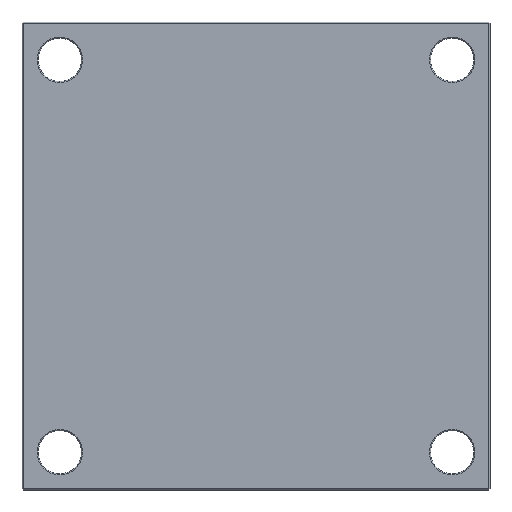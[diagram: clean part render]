
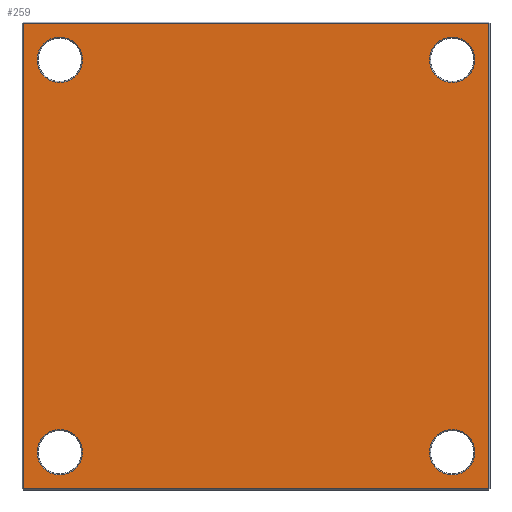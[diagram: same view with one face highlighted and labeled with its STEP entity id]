
A CAD part, front view. The second image highlights one B-rep face of the part: STEP entity #259.
In plain terms, the highlighted planar face has unit normal (0, -1, 0).
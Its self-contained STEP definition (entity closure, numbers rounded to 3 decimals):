
#9 = ORIENTED_EDGE ( 'NONE', *, *, #1429, .T. ) ;
#25 = ORIENTED_EDGE ( 'NONE', *, *, #1503, .T. ) ;
#26 = AXIS2_PLACEMENT_3D ( 'NONE', #1966, #1975, #2094 ) ;
#30 = CIRCLE ( 'NONE', #26, 21.65 ) ;
#31 = VERTEX_POINT ( 'NONE', #341 ) ;
#90 = CARTESIAN_POINT ( 'NONE',  ( -222., 0., 0. ) ) ;
#106 = AXIS2_PLACEMENT_3D ( 'NONE', #1601, #1620, #1781 ) ;
#234 = CIRCLE ( 'NONE', #519, 21.65 ) ;
#259 = ADVANCED_FACE ( 'NONE', ( #421, #1192, #1643, #1147, #784 ), #2147, .F. ) ;
#273 = CARTESIAN_POINT ( 'NONE',  ( -222., 0., -222. ) ) ;
#302 = CARTESIAN_POINT ( 'NONE',  ( 0., 0., -222. ) ) ;
#303 = CIRCLE ( 'NONE', #349, 21.65 ) ;
#341 = CARTESIAN_POINT ( 'NONE',  ( 222., 0., 222. ) ) ;
#349 = AXIS2_PLACEMENT_3D ( 'NONE', #994, #1001, #1007 ) ;
#370 = VERTEX_POINT ( 'NONE', #1211 ) ;
#384 = ORIENTED_EDGE ( 'NONE', *, *, #471, .T. ) ;
#390 = DIRECTION ( 'NONE',  ( 0., 1., 0. ) ) ;
#421 = FACE_BOUND ( 'NONE', #733, .T. ) ;
#447 = AXIS2_PLACEMENT_3D ( 'NONE', #1636, #1652, #1686 ) ;
#456 = VERTEX_POINT ( 'NONE', #810 ) ;
#463 = VERTEX_POINT ( 'NONE', #2179 ) ;
#471 = EDGE_CURVE ( 'NONE', #2024, #370, #1387, .T. ) ;
#474 = EDGE_CURVE ( 'NONE', #2096, #2024, #1328, .T. ) ;
#490 = EDGE_LOOP ( 'NONE', ( #930, #601 ) ) ;
#493 = EDGE_CURVE ( 'NONE', #31, #2096, #934, .T. ) ;
#499 = EDGE_CURVE ( 'NONE', #370, #31, #1271, .T. ) ;
#501 = CIRCLE ( 'NONE', #106, 21.65 ) ;
#504 = EDGE_CURVE ( 'NONE', #872, #456, #501, .T. ) ;
#509 = EDGE_CURVE ( 'NONE', #463, #1097, #30, .T. ) ;
#519 = AXIS2_PLACEMENT_3D ( 'NONE', #1191, #1223, #1233 ) ;
#541 = AXIS2_PLACEMENT_3D ( 'NONE', #2051, #390, #1588 ) ;
#556 = VECTOR ( 'NONE', #667, 1000. ) ;
#587 = CARTESIAN_POINT ( 'NONE',  ( -187., 0., -208.65 ) ) ;
#601 = ORIENTED_EDGE ( 'NONE', *, *, #1372, .T. ) ;
#620 = CIRCLE ( 'NONE', #447, 21.65 ) ;
#623 = CARTESIAN_POINT ( 'NONE',  ( -222., 0., 222. ) ) ;
#648 = AXIS2_PLACEMENT_3D ( 'NONE', #2058, #2064, #2074 ) ;
#655 = VERTEX_POINT ( 'NONE', #1960 ) ;
#667 = DIRECTION ( 'NONE',  ( 1., 0., 0. ) ) ;
#683 = EDGE_LOOP ( 'NONE', ( #1251, #920, #1050, #384 ) ) ;
#733 = EDGE_LOOP ( 'NONE', ( #1763, #954 ) ) ;
#745 = VERTEX_POINT ( 'NONE', #794 ) ;
#784 = FACE_OUTER_BOUND ( 'NONE', #683, .T. ) ;
#794 = CARTESIAN_POINT ( 'NONE',  ( 187., 0., -165.35 ) ) ;
#799 = DIRECTION ( 'NONE',  ( -1., 0., 0. ) ) ;
#810 = CARTESIAN_POINT ( 'NONE',  ( -187., 0., 165.35 ) ) ;
#816 = DIRECTION ( 'NONE',  ( 0., 0., -1. ) ) ;
#872 = VERTEX_POINT ( 'NONE', #1958 ) ;
#892 = VERTEX_POINT ( 'NONE', #1963 ) ;
#902 = VECTOR ( 'NONE', #799, 1000. ) ;
#920 = ORIENTED_EDGE ( 'NONE', *, *, #493, .T. ) ;
#930 = ORIENTED_EDGE ( 'NONE', *, *, #1346, .T. ) ;
#934 = LINE ( 'NONE', #940, #902 ) ;
#940 = CARTESIAN_POINT ( 'NONE',  ( 0., 0., 222. ) ) ;
#948 = CARTESIAN_POINT ( 'NONE',  ( 222., 0., 0. ) ) ;
#954 = ORIENTED_EDGE ( 'NONE', *, *, #509, .T. ) ;
#969 = CARTESIAN_POINT ( 'NONE',  ( 0., 0., 0. ) ) ;
#994 = CARTESIAN_POINT ( 'NONE',  ( -187., 0., -187. ) ) ;
#1001 = DIRECTION ( 'NONE',  ( 0., 1., 0. ) ) ;
#1007 = DIRECTION ( 'NONE',  ( 0., 0., 1. ) ) ;
#1050 = ORIENTED_EDGE ( 'NONE', *, *, #474, .T. ) ;
#1059 = DIRECTION ( 'NONE',  ( 0., 0., 1. ) ) ;
#1097 = VERTEX_POINT ( 'NONE', #587 ) ;
#1147 = FACE_BOUND ( 'NONE', #2160, .T. ) ;
#1191 = CARTESIAN_POINT ( 'NONE',  ( 187., 0., 187. ) ) ;
#1192 = FACE_BOUND ( 'NONE', #1557, .T. ) ;
#1211 = CARTESIAN_POINT ( 'NONE',  ( 222., 0., -222. ) ) ;
#1223 = DIRECTION ( 'NONE',  ( 0., 1., 0. ) ) ;
#1233 = DIRECTION ( 'NONE',  ( 0., 0., 1. ) ) ;
#1251 = ORIENTED_EDGE ( 'NONE', *, *, #499, .T. ) ;
#1271 = LINE ( 'NONE', #948, #2166 ) ;
#1293 = ORIENTED_EDGE ( 'NONE', *, *, #1403, .T. ) ;
#1328 = LINE ( 'NONE', #90, #1788 ) ;
#1330 = EDGE_CURVE ( 'NONE', #1097, #463, #303, .T. ) ;
#1346 = EDGE_CURVE ( 'NONE', #1823, #655, #234, .T. ) ;
#1372 = EDGE_CURVE ( 'NONE', #655, #1823, #620, .T. ) ;
#1387 = LINE ( 'NONE', #302, #556 ) ;
#1403 = EDGE_CURVE ( 'NONE', #745, #892, #1752, .T. ) ;
#1429 = EDGE_CURVE ( 'NONE', #892, #745, #2084, .T. ) ;
#1503 = EDGE_CURVE ( 'NONE', #456, #872, #1640, .T. ) ;
#1557 = EDGE_LOOP ( 'NONE', ( #9, #1293 ) ) ;
#1588 = DIRECTION ( 'NONE',  ( 0., 0., 1. ) ) ;
#1601 = CARTESIAN_POINT ( 'NONE',  ( -187., 0., 187. ) ) ;
#1620 = DIRECTION ( 'NONE',  ( 0., 1., 0. ) ) ;
#1636 = CARTESIAN_POINT ( 'NONE',  ( 187., 0., 187. ) ) ;
#1640 = CIRCLE ( 'NONE', #1771, 21.65 ) ;
#1643 = FACE_BOUND ( 'NONE', #490, .T. ) ;
#1652 = DIRECTION ( 'NONE',  ( 0., 1., 0. ) ) ;
#1686 = DIRECTION ( 'NONE',  ( 0., 0., 1. ) ) ;
#1709 = ORIENTED_EDGE ( 'NONE', *, *, #504, .T. ) ;
#1742 = AXIS2_PLACEMENT_3D ( 'NONE', #969, #2032, #2059 ) ;
#1752 = CIRCLE ( 'NONE', #648, 21.65 ) ;
#1763 = ORIENTED_EDGE ( 'NONE', *, *, #1330, .T. ) ;
#1771 = AXIS2_PLACEMENT_3D ( 'NONE', #2029, #2008, #2014 ) ;
#1781 = DIRECTION ( 'NONE',  ( 0., 0., 1. ) ) ;
#1788 = VECTOR ( 'NONE', #816, 1000. ) ;
#1823 = VERTEX_POINT ( 'NONE', #1934 ) ;
#1934 = CARTESIAN_POINT ( 'NONE',  ( 187., 0., 165.35 ) ) ;
#1958 = CARTESIAN_POINT ( 'NONE',  ( -187., 0., 208.65 ) ) ;
#1960 = CARTESIAN_POINT ( 'NONE',  ( 187., 0., 208.65 ) ) ;
#1963 = CARTESIAN_POINT ( 'NONE',  ( 187., 0., -208.65 ) ) ;
#1966 = CARTESIAN_POINT ( 'NONE',  ( -187., 0., -187. ) ) ;
#1975 = DIRECTION ( 'NONE',  ( 0., 1., 0. ) ) ;
#2008 = DIRECTION ( 'NONE',  ( 0., 1., 0. ) ) ;
#2014 = DIRECTION ( 'NONE',  ( 0., 0., 1. ) ) ;
#2024 = VERTEX_POINT ( 'NONE', #273 ) ;
#2029 = CARTESIAN_POINT ( 'NONE',  ( -187., 0., 187. ) ) ;
#2032 = DIRECTION ( 'NONE',  ( 0., 1., 0. ) ) ;
#2051 = CARTESIAN_POINT ( 'NONE',  ( 187., 0., -187. ) ) ;
#2058 = CARTESIAN_POINT ( 'NONE',  ( 187., 0., -187. ) ) ;
#2059 = DIRECTION ( 'NONE',  ( 0., 0., 1. ) ) ;
#2064 = DIRECTION ( 'NONE',  ( 0., 1., 0. ) ) ;
#2074 = DIRECTION ( 'NONE',  ( 0., 0., 1. ) ) ;
#2084 = CIRCLE ( 'NONE', #541, 21.65 ) ;
#2094 = DIRECTION ( 'NONE',  ( 0., 0., 1. ) ) ;
#2096 = VERTEX_POINT ( 'NONE', #623 ) ;
#2147 = PLANE ( 'NONE',  #1742 ) ;
#2160 = EDGE_LOOP ( 'NONE', ( #25, #1709 ) ) ;
#2166 = VECTOR ( 'NONE', #1059, 1000. ) ;
#2179 = CARTESIAN_POINT ( 'NONE',  ( -187., 0., -165.35 ) ) ;
